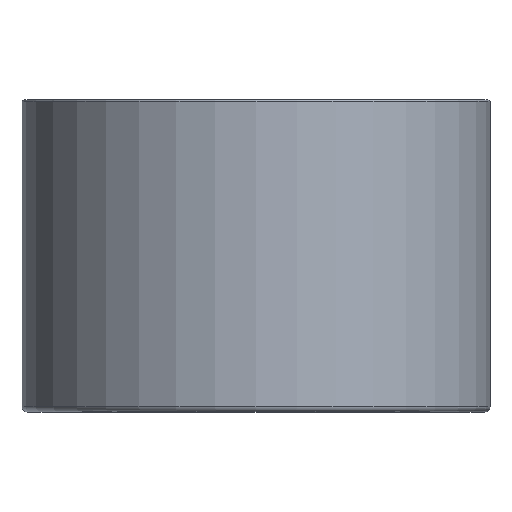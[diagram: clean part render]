
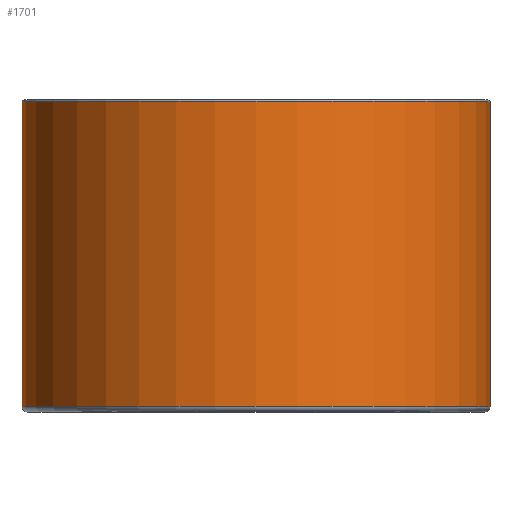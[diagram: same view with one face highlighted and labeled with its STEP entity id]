
A CAD part, top view. The second image highlights one B-rep face of the part: STEP entity #1701.
In plain terms, the highlighted cylindrical face has radius 45 mm (diameter 90 mm), a partial arc.
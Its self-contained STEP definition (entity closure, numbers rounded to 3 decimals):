
#81=DIRECTION('',(0.,1.,0.));
#82=VECTOR('',#81,58.7);
#83=CARTESIAN_POINT('',(45.,1.,0.));
#84=LINE('',#83,#82);
#194=CARTESIAN_POINT('',(0.,59.7,0.));
#195=DIRECTION('',(0.,1.,0.));
#196=DIRECTION('',(-1.,0.,0.));
#197=AXIS2_PLACEMENT_3D('',#194,#195,#196);
#202=CARTESIAN_POINT('',(0.,1.,0.));
#203=DIRECTION('',(0.,-1.,0.));
#204=DIRECTION('',(1.,0.,0.));
#205=AXIS2_PLACEMENT_3D('',#202,#203,#204);
#210=DIRECTION('',(0.,1.,0.));
#211=VECTOR('',#210,58.7);
#212=CARTESIAN_POINT('',(-45.,1.,0.));
#213=LINE('',#212,#211);
#1287=CARTESIAN_POINT('',(45.,1.,0.));
#1288=CARTESIAN_POINT('',(-45.,1.,0.));
#1289=VERTEX_POINT('',#1287);
#1290=VERTEX_POINT('',#1288);
#1427=CARTESIAN_POINT('',(-45.,59.7,0.));
#1428=CARTESIAN_POINT('',(45.,59.7,0.));
#1429=VERTEX_POINT('',#1427);
#1430=VERTEX_POINT('',#1428);
#1690=CARTESIAN_POINT('',(0.,0.,0.));
#1691=DIRECTION('',(0.,1.,0.));
#1692=DIRECTION('',(1.,0.,0.));
#1693=AXIS2_PLACEMENT_3D('',#1690,#1691,#1692);
#1694=CYLINDRICAL_SURFACE('',#1693,45.);
#1695=ORIENTED_EDGE('',*,*,#1677,.T.);
#1696=ORIENTED_EDGE('',*,*,#1568,.F.);
#1697=ORIENTED_EDGE('',*,*,#1524,.T.);
#1698=ORIENTED_EDGE('',*,*,#1565,.T.);
#1699=EDGE_LOOP('',(#1695,#1696,#1697,#1698));
#1700=FACE_OUTER_BOUND('',#1699,.F.);
#1701=ADVANCED_FACE('',(#1700),#1694,.T.);
#198=CIRCLE('',#197,45.);
#206=CIRCLE('',#205,45.);
#1524=EDGE_CURVE('',#1289,#1290,#206,.T.);
#1565=EDGE_CURVE('',#1290,#1429,#213,.T.);
#1568=EDGE_CURVE('',#1289,#1430,#84,.T.);
#1677=EDGE_CURVE('',#1429,#1430,#198,.T.);
